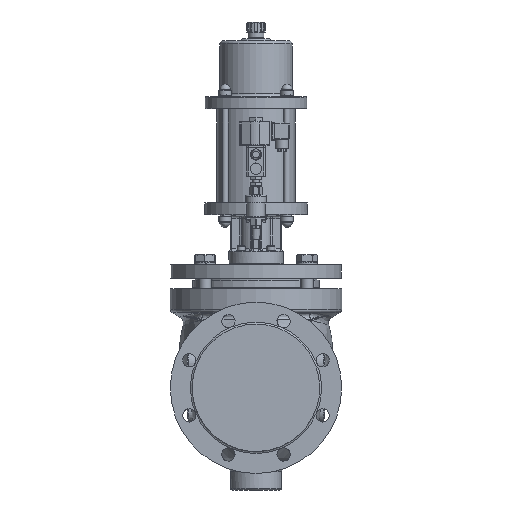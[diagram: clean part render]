
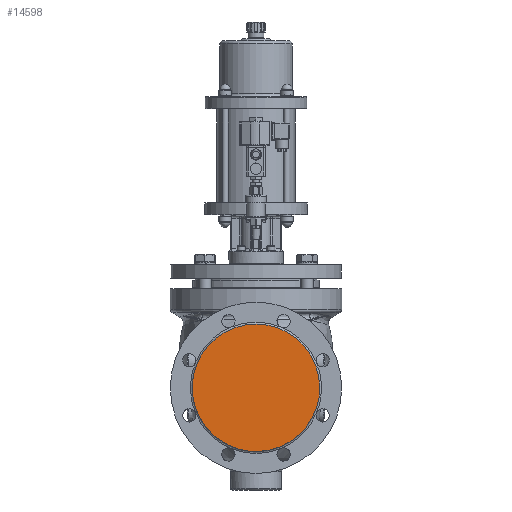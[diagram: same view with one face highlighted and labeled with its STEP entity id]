
A CAD part, left-side view. The second image highlights one B-rep face of the part: STEP entity #14598.
In plain terms, the highlighted planar face has unit normal (-1, 0, 0).
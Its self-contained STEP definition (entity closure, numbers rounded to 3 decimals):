
#14582=CARTESIAN_POINT('',(-240.0,0.,0.));
#14583=DIRECTION('',(-1.0,0.0,0.0));
#14584=DIRECTION('',(0.0,0.0,1.0));
#14585=AXIS2_PLACEMENT_3D('',#14582,#14583,#14584);
#14586=PLANE('',#14585);
#14587=CARTESIAN_POINT('',(-240.,0.,106.));
#14588=VERTEX_POINT('',#14587);
#14589=CARTESIAN_POINT('',(-240.0,0.,0.));
#14590=DIRECTION('',(1.0,0.0,0.0));
#14591=DIRECTION('',(0.0,0.0,1.0));
#14592=AXIS2_PLACEMENT_3D('',#14589,#14590,#14591);
#14593=CIRCLE('',#14592,106.);
#14594=EDGE_CURVE('',#14588,#14588,#14593,.T.);
#14595=ORIENTED_EDGE('',*,*,#14594,.F.);
#14596=EDGE_LOOP('',(#14595));
#14597=FACE_OUTER_BOUND('',#14596,.T.);
#14598=ADVANCED_FACE('',(#14597),#14586,.T.);
